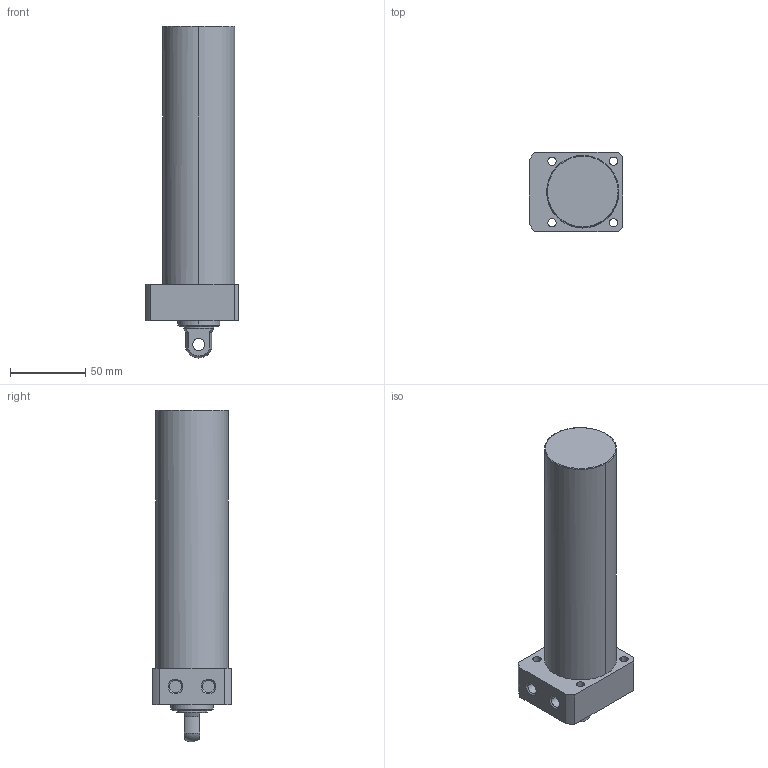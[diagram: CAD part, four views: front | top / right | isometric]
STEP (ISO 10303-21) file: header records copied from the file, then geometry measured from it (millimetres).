
FILE_DESCRIPTION((' '),'2;1');
FILE_NAME( 'TLLR-048CP-145.STEP.stp', '2025-10-24T16:34:41', (' '), ('--- Datakit www.datakit.com---'), ' Datakit CrossCadWare V2024.1 Dec 21 2023', 'Mastercam 2025', ' ');
FILE_SCHEMA(('AUTOMOTIVE_DESIGN { 1 0 10303 214 1 1 1 1 }'));
Length unit declared in the file: millimetre
Products named in the file (1): TLLR-048CP-145
Bounding box: 62 x 53 x 220.94 mm (x, y, z)
Volume: 390731.5 mm3; surface area: 41343.5 mm2
Topology: 1 solids, 1 shells, 57 faces, 164 edges, 116 vertices
Faces by surface type: cylinder 28, plane 18, cone 8, torus 2, sphere 1
Entity records: 2006 total; most frequent: DIRECTION 378, CARTESIAN_POINT 350, ORIENTED_EDGE 328, EDGE_CURVE 164, AXIS2_PLACEMENT_3D 160, VERTEX_POINT 116, CIRCLE 102, EDGE_LOOP 74
